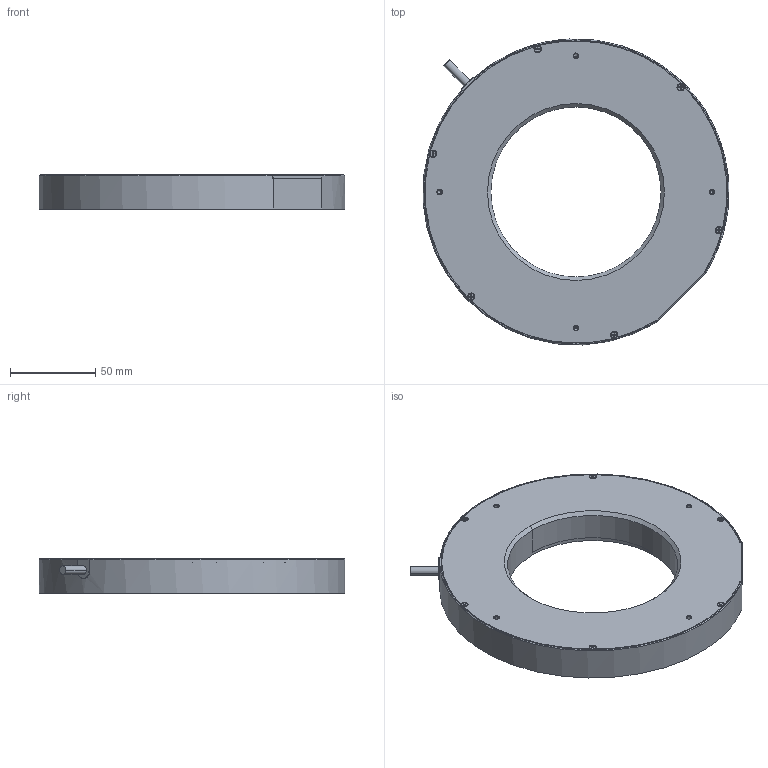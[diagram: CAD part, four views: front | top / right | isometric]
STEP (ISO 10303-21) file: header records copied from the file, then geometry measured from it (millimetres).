
FILE_DESCRIPTION((''),'2;1');
FILE_NAME('180-90','2024-03-29T18:10:17',('qiaoxuan5'),(''),'CREO PARAMETRIC BY PTC INC, 2020044','CREO PARAMETRIC BY PTC INC, 2020044','');
FILE_SCHEMA(('CONFIG_CONTROL_DESIGN'));
Length unit declared in the file: millimetre
Products named in the file (1): 180-90
Bounding box: 179.75 x 179.85 x 20 mm (x, y, z)
Volume: 343255.6 mm3; surface area: 68945.1 mm2
Topology: 1 solids, 53 shells, 828 faces, 1982 edges, 1212 vertices
Faces by surface type: plane 411, cylinder 257, cone 126, torus 28, sphere 6
Entity records: 27364 total; most frequent: CARTESIAN_POINT 8287, DIRECTION 4050, ORIENTED_EDGE 3776, EDGE_CURVE 1944, AXIS2_PLACEMENT_3D 1498, VERTEX_POINT 1212, VECTOR 1054, LINE 1054
